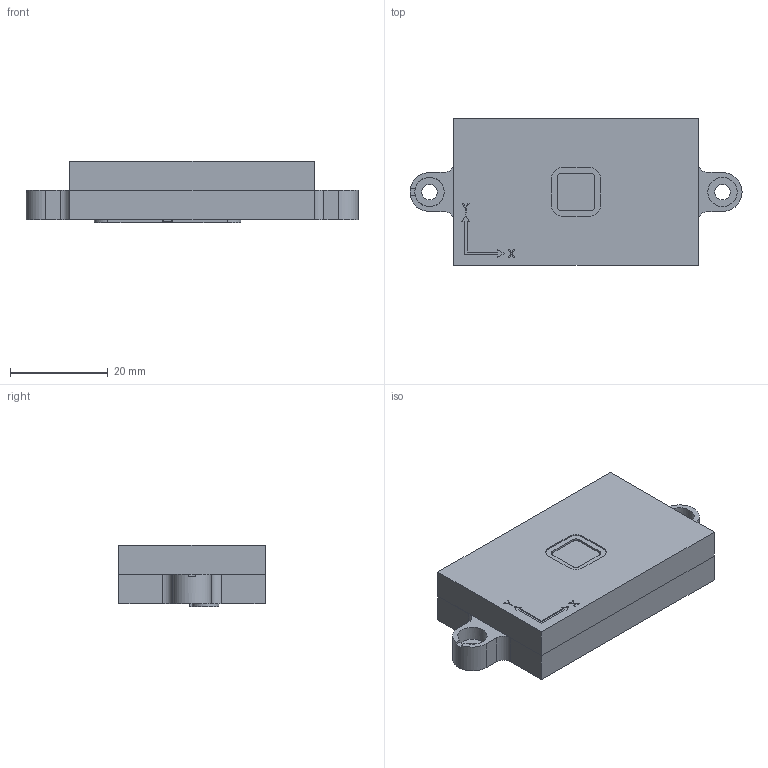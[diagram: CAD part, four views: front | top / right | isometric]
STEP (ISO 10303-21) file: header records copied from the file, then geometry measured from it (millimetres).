
FILE_DESCRIPTION(/* description */ (''),/* implementation_level */ '2;1');
FILE_NAME(/* name */ 'C:\Users\Isaac Fdez\OneDrive - Solar MEMS Technologies\Diseños\SSOCD60\D60 N_Assembly.stp',/* time_stamp */ '2020-08-17T13:44:07+02:00',/* author */ ('Isaac Fdez'),/* organization */ (''),/* preprocessor_version */ 'ST-DEVELOPER v16.5',/* originating_system */ 'Autodesk Inventor 2017',/* authorisation */ '');
FILE_SCHEMA (('AUTOMOTIVE_DESIGN { 1 0 10303 214 3 1 1 }'));
Products named in the file (12): D60 N_Assembly; D60 N_Base; 221T20F22; 221T20F22_tuercas; Dado SSOC; Molde Base SSOC; PHD UPC; CG 760 UPC; Marco Base SSOC; CG 400 UPC; D60 N_Tapa; 00842___2__8-mattssons
Assembly tree (14 placements, depth 3):
  D60 N_Assembly
    D60 N_Base
    221T20F22
    221T20F22_tuercas
    Dado SSOC
      Molde Base SSOC
      PHD UPC
      CG 760 UPC
      Marco Base SSOC
      CG 400 UPC
    D60 N_Tapa
    00842___2__8-mattssons  x4
Bounding box: 68 x 30 x 12.66 mm (x, y, z)
Volume: 11380.9 mm3; surface area: 12605.2 mm2
Topology: 41 solids, 80 shells, 3486 faces, 9231 edges, 6117 vertices
Faces by surface type: plane 2024, cylinder 710, bspline 460, cone 182, torus 90, sphere 20
Full cylindrical faces by diameter (mm): 0.45 x20, 0.8 x16, 1 x16, 1.567 x4, 1.64 x2, 2 x80, 2.1 x2, 2.2 x4, 3 x2, 3.2 x4, 3.8 x4, 4 x6, 5 x1, 6 x2
Entity records: 105218 total; most frequent: CARTESIAN_POINT 28028, ORIENTED_EDGE 16358, DIRECTION 14069, EDGE_CURVE 8179, LINE 5535, VECTOR 5535, VERTEX_POINT 5517, AXIS2_PLACEMENT_3D 4267
